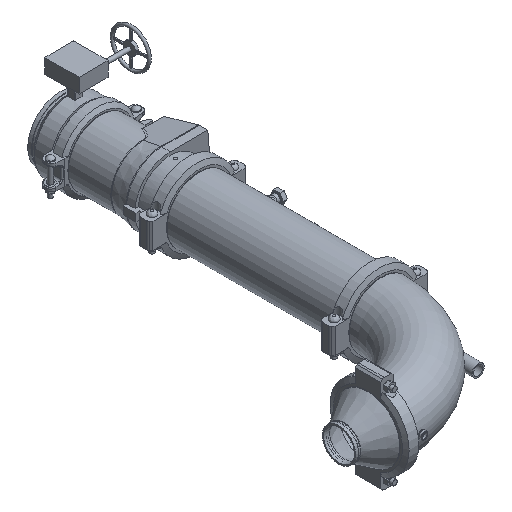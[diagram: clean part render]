
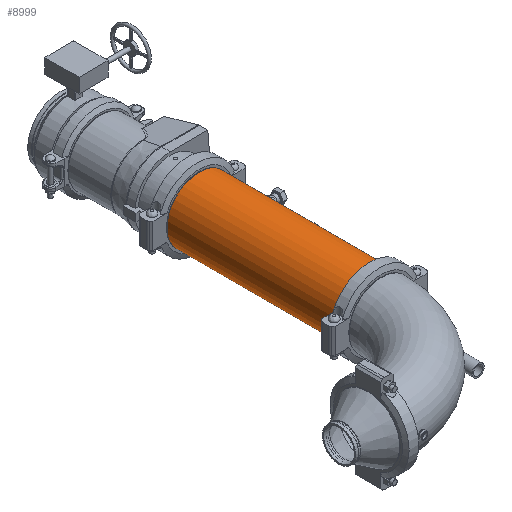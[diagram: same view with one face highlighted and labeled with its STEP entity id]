
A CAD part, isometric view. The second image highlights one B-rep face of the part: STEP entity #8999.
In plain terms, the highlighted cylindrical face has radius 161.925 mm (diameter 323.85 mm), a full revolution.
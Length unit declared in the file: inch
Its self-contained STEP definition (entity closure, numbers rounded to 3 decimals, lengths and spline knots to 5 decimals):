
#259=LINE('',#13609,#918);
#918=VECTOR('',#10830,6.375);
#1577=CYLINDRICAL_SURFACE('',#9747,6.375);
#1860=FACE_OUTER_BOUND('',#2373,.T.);
#2373=EDGE_LOOP('',(#5642,#5643,#5644,#5645,#5646,#5647));
#2993=CIRCLE('',#9745,6.375);
#2994=CIRCLE('',#9746,6.375);
#2995=CIRCLE('',#9748,6.375);
#2996=CIRCLE('',#9749,6.375);
#3489=VERTEX_POINT('',#13600);
#3490=VERTEX_POINT('',#13601);
#3491=VERTEX_POINT('',#13605);
#3492=VERTEX_POINT('',#13606);
#4356=EDGE_CURVE('',#3489,#3490,#2993,.T.);
#4357=EDGE_CURVE('',#3490,#3489,#2994,.T.);
#4358=EDGE_CURVE('',#3491,#3492,#2995,.T.);
#4359=EDGE_CURVE('',#3492,#3491,#2996,.T.);
#4360=EDGE_CURVE('',#3492,#3490,#259,.T.);
#5642=ORIENTED_EDGE('',*,*,#4358,.F.);
#5643=ORIENTED_EDGE('',*,*,#4359,.F.);
#5644=ORIENTED_EDGE('',*,*,#4360,.T.);
#5645=ORIENTED_EDGE('',*,*,#4357,.T.);
#5646=ORIENTED_EDGE('',*,*,#4356,.T.);
#5647=ORIENTED_EDGE('',*,*,#4360,.F.);
#8999=ADVANCED_FACE('',(#1860),#1577,.T.);
#9745=AXIS2_PLACEMENT_3D('',#13602,#10820,#10821);
#9746=AXIS2_PLACEMENT_3D('',#13603,#10822,#10823);
#9747=AXIS2_PLACEMENT_3D('',#13604,#10824,#10825);
#9748=AXIS2_PLACEMENT_3D('',#13607,#10826,#10827);
#9749=AXIS2_PLACEMENT_3D('',#13608,#10828,#10829);
#10820=DIRECTION('center_axis',(1.,0.,0.));
#10821=DIRECTION('ref_axis',(0.,0.,-1.));
#10822=DIRECTION('center_axis',(1.,0.,0.));
#10823=DIRECTION('ref_axis',(0.,0.,-1.));
#10824=DIRECTION('center_axis',(1.,0.,0.));
#10825=DIRECTION('ref_axis',(0.,1.,0.));
#10826=DIRECTION('center_axis',(1.,0.,0.));
#10827=DIRECTION('ref_axis',(0.,0.,-1.));
#10828=DIRECTION('center_axis',(1.,0.,0.));
#10829=DIRECTION('ref_axis',(0.,0.,-1.));
#10830=DIRECTION('',(-1.,0.,0.));
#13600=CARTESIAN_POINT('',(-16.77475,6.375,0.));
#13601=CARTESIAN_POINT('',(-16.77475,-6.375,0.));
#13602=CARTESIAN_POINT('Origin',(-16.77475,0.,0.));
#13603=CARTESIAN_POINT('Origin',(-16.77475,0.,0.));
#13604=CARTESIAN_POINT('Origin',(0.,0.,0.));
#13605=CARTESIAN_POINT('',(16.77475,6.375,0.));
#13606=CARTESIAN_POINT('',(16.77475,-6.375,0.));
#13607=CARTESIAN_POINT('Origin',(16.77475,0.,0.));
#13608=CARTESIAN_POINT('Origin',(16.77475,0.,0.));
#13609=CARTESIAN_POINT('',(0.,-6.375,0.));
